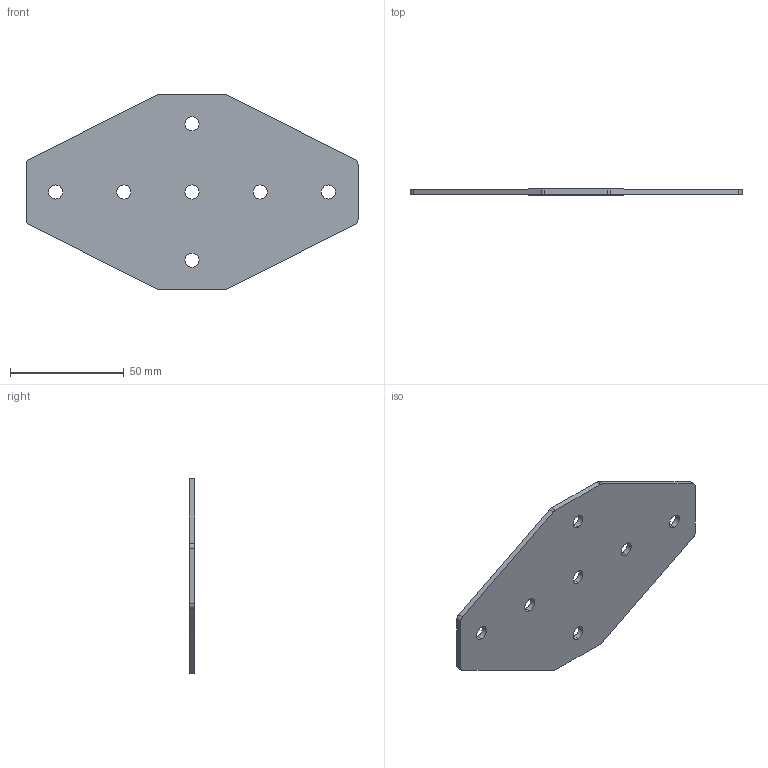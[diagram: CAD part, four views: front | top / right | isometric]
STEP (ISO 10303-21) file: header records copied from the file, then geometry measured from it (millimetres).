
FILE_DESCRIPTION (( 'STEP AP203' ), '1' );
FILE_NAME ('ﾕ-7-ﾓ-30.STEP', '2016-07-23T09:46:15', ( '' ), ( '' ), 'SwSTEP 2.0', 'SolidWorks 2014', '' );
FILE_SCHEMA (( 'CONFIG_CONTROL_DESIGN' ));
Length unit declared in the file: millimetre
Products named in the file (1): ﾕ-7-ﾓ-30
Bounding box: 146 x 2.5 x 86 mm (x, y, z)
Surface area: 19122 mm2 (no closed solid volume)
Topology: 0 solids, 1 shells, 32 faces, 90 edges, 60 vertices
Faces by surface type: cylinder 22, plane 10
Entity records: 1163 total; most frequent: DIRECTION 200, CARTESIAN_POINT 183, ORIENTED_EDGE 180, EDGE_CURVE 90, AXIS2_PLACEMENT_3D 77, VERTEX_POINT 60, EDGE_LOOP 46, LINE 46
